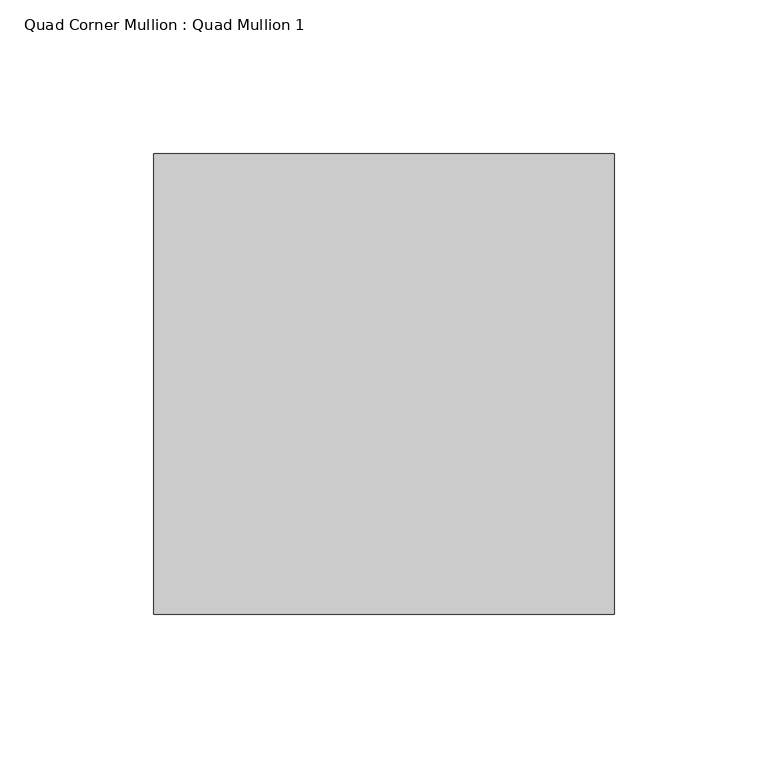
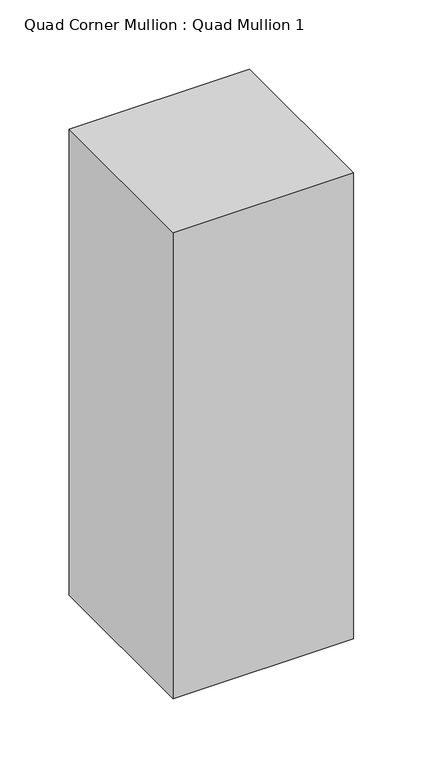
"""IFC4 building model written with IfcOpenShell, lengths in millimetres: member geometry, Quad Corner Mullion : Quad Mullion 1."""

from ifc_helpers import new_model, si_unit, frame, origin, place, context, project, spatial, polyline, outline, extrude, source, transform, mapped, element, save


def quad_corner_mullion_quad_mullion_1_470f416b(model_context):
    return source(origin(), model_context, "Body", "SweptSolid", [
        extrude(outline(polyline([(75.0, 75.0), (75.0, -75.0), (-75.0, -75.0), (-75.0, 75.0), (75.0, 75.0)])), frame((0.0, 0.0, -410.0), z_axis=(0.0, 0.0, 1.0), x_axis=(1.0, 0.0, 0.0)), (0.0, 0.0, 1.0), 410.0),
    ])


if __name__ == "__main__":
    model = new_model("IFC4")
    model_context = context("Model", 3, world=origin())
    ifc_project = project(units=[si_unit("LENGTHUNIT", "METRE", prefix="MILLI")], contexts=[model_context])
    site = spatial("IfcSite", under=ifc_project)
    building = spatial("IfcBuilding", under=site)
    placement = place(None, origin())
    quad_corner_mullion_quad_mullion_1_shape = quad_corner_mullion_quad_mullion_1_470f416b(model_context)
    element("IfcMember", 1, ObjectType="Quad Corner Mullion : Quad Mullion 1", at=placement, inside=building, context=model_context, shape_type="MappedRepresentation", body=[
        mapped(quad_corner_mullion_quad_mullion_1_shape, transform((0.0, 0.0, 0.0), x_axis=(1.0, 0.0, 0.0), y_axis=(0.0, 1.0, 0.0), z_axis=(0.0, 0.0, 1.0))),
    ])
    save(model, "model.ifc")
